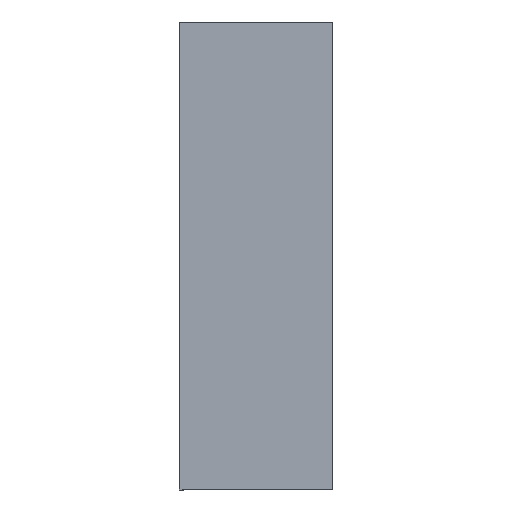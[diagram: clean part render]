
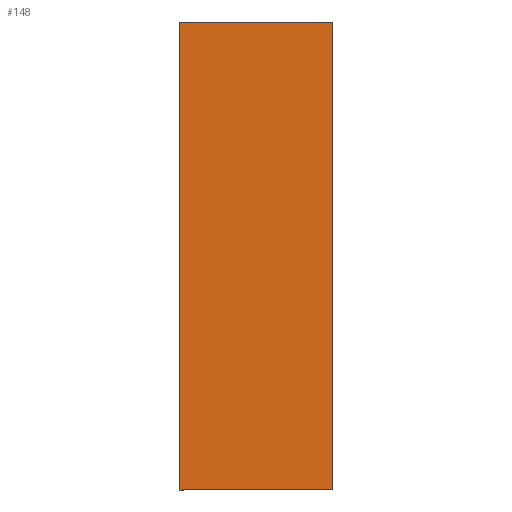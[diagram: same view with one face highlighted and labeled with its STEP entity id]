
A CAD part, front view. The second image highlights one B-rep face of the part: STEP entity #148.
In plain terms, the highlighted planar face has unit normal (0, -1, 0).
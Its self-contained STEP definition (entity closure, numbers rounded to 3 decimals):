
#2 = VERTEX_POINT ( 'NONE', #132 ) ;
#8 = CARTESIAN_POINT ( 'NONE',  ( 0., 0., 0. ) ) ;
#18 = EDGE_CURVE ( 'NONE', #169, #198, #204, .T. ) ;
#21 = ORIENTED_EDGE ( 'NONE', *, *, #18, .F. ) ;
#27 = VECTOR ( 'NONE', #30, 1000. ) ;
#28 = DIRECTION ( 'NONE',  ( 0., 0., -1. ) ) ;
#29 = CARTESIAN_POINT ( 'NONE',  ( -50., 0., -152. ) ) ;
#30 = DIRECTION ( 'NONE',  ( -1., 0., 0. ) ) ;
#34 = ORIENTED_EDGE ( 'NONE', *, *, #107, .F. ) ;
#37 = FACE_OUTER_BOUND ( 'NONE', #68, .T. ) ;
#38 = LINE ( 'NONE', #229, #65 ) ;
#43 = CARTESIAN_POINT ( 'NONE',  ( 50., 0., 152. ) ) ;
#65 = VECTOR ( 'NONE', #111, 1000. ) ;
#68 = EDGE_LOOP ( 'NONE', ( #172, #21, #34, #109 ) ) ;
#78 = DIRECTION ( 'NONE',  ( 1., 0., 0. ) ) ;
#89 = VECTOR ( 'NONE', #28, 1000. ) ;
#101 = AXIS2_PLACEMENT_3D ( 'NONE', #8, #130, #187 ) ;
#107 = EDGE_CURVE ( 'NONE', #2, #169, #38, .T. ) ;
#109 = ORIENTED_EDGE ( 'NONE', *, *, #166, .F. ) ;
#111 = DIRECTION ( 'NONE',  ( 0., 0., 1. ) ) ;
#113 = CARTESIAN_POINT ( 'NONE',  ( -50., 0., 152. ) ) ;
#125 = VERTEX_POINT ( 'NONE', #203 ) ;
#130 = DIRECTION ( 'NONE',  ( 0., -1., 0. ) ) ;
#132 = CARTESIAN_POINT ( 'NONE',  ( -50., 0., -152. ) ) ;
#136 = LINE ( 'NONE', #29, #27 ) ;
#148 = ADVANCED_FACE ( 'NONE', ( #37 ), #170, .T. ) ;
#160 = CARTESIAN_POINT ( 'NONE',  ( 50., 0., 152. ) ) ;
#166 = EDGE_CURVE ( 'NONE', #125, #2, #136, .T. ) ;
#169 = VERTEX_POINT ( 'NONE', #196 ) ;
#170 = PLANE ( 'NONE',  #101 ) ;
#172 = ORIENTED_EDGE ( 'NONE', *, *, #195, .F. ) ;
#173 = VECTOR ( 'NONE', #78, 1000. ) ;
#175 = LINE ( 'NONE', #43, #89 ) ;
#187 = DIRECTION ( 'NONE',  ( 0., 0., -1. ) ) ;
#195 = EDGE_CURVE ( 'NONE', #198, #125, #175, .T. ) ;
#196 = CARTESIAN_POINT ( 'NONE',  ( -50., 0., 152. ) ) ;
#198 = VERTEX_POINT ( 'NONE', #160 ) ;
#203 = CARTESIAN_POINT ( 'NONE',  ( 50., 0., -152. ) ) ;
#204 = LINE ( 'NONE', #113, #173 ) ;
#229 = CARTESIAN_POINT ( 'NONE',  ( -50., 0., 152. ) ) ;
